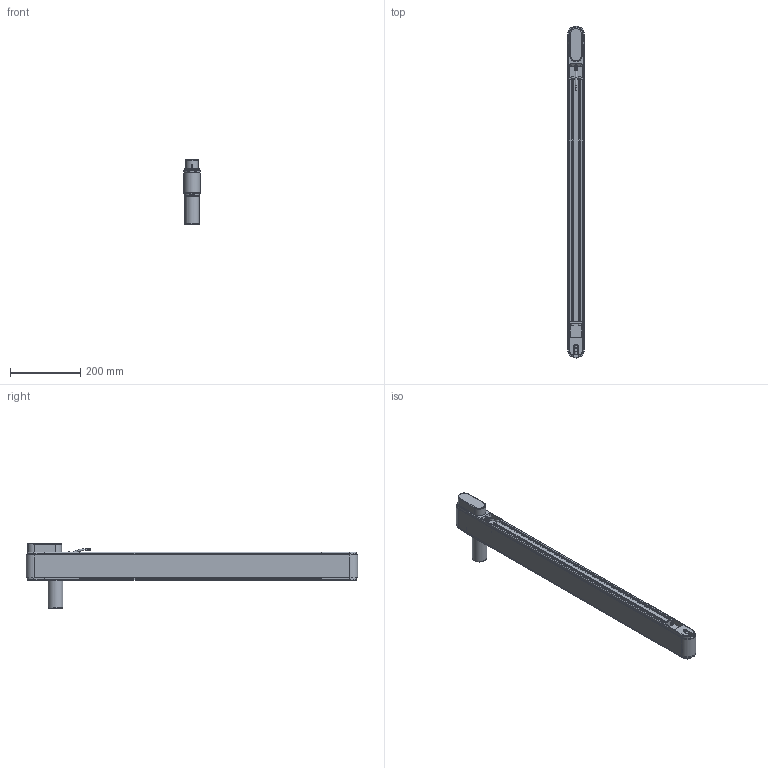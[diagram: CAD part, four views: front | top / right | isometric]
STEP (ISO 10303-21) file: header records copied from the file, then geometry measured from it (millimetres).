
FILE_DESCRIPTION(/* description */ (''),/* implementation_level */ '2;1');
FILE_NAME(/* name */ 'G:\DATEN\CAD\Förderband\Marketing\3D-Modelle (Standard)\FR-40-80-Q\FR-40-80-Q-900-K (Motorendrohr 80 mm).stp',/* time_stamp */ '2019-05-08T14:19:27+02:00',/* author */ ('melanie.ochs'),/* organization */ (''),/* preprocessor_version */ 'ST-DEVELOPER v17',/* originating_system */ 'Autodesk Inventor 2019',/* authorisation */ '');
FILE_SCHEMA (('CONFIG_CONTROL_DESIGN'));
Length unit declared in the file: millimetre
Products named in the file (1): FR-40-80-Q-900-K (Motorendrohr 80 mm)
Bounding box: 46.6 x 946.6 x 185 mm (x, y, z)
Volume: 1625796 mm3; surface area: 940900 mm2
Topology: 31 solids, 32 shells, 885 faces, 2408 edges, 1638 vertices
Faces by surface type: plane 442, cylinder 279, cone 72, bspline 61, torus 31
Full cylindrical faces by diameter (mm): 2 x2, 4 x6, 4.3 x4, 4.65 x1, 4.917 x2, 5 x11, 5.5 x8, 6 x2, 6.5 x1, 6.773 x1, 6.917 x2, 8 x7, 8.3 x16, 8.5 x8, 8.773 x1, 10 x1, 11 x1, 12 x3, 25 x2, 28 x4, 42 x2, 44 x2
Entity records: 29783 total; most frequent: CARTESIAN_POINT 6251, ORIENTED_EDGE 4780, DIRECTION 4651, EDGE_CURVE 2390, AXIS2_PLACEMENT_3D 1690, VERTEX_POINT 1638, LINE 1271, VECTOR 1271
